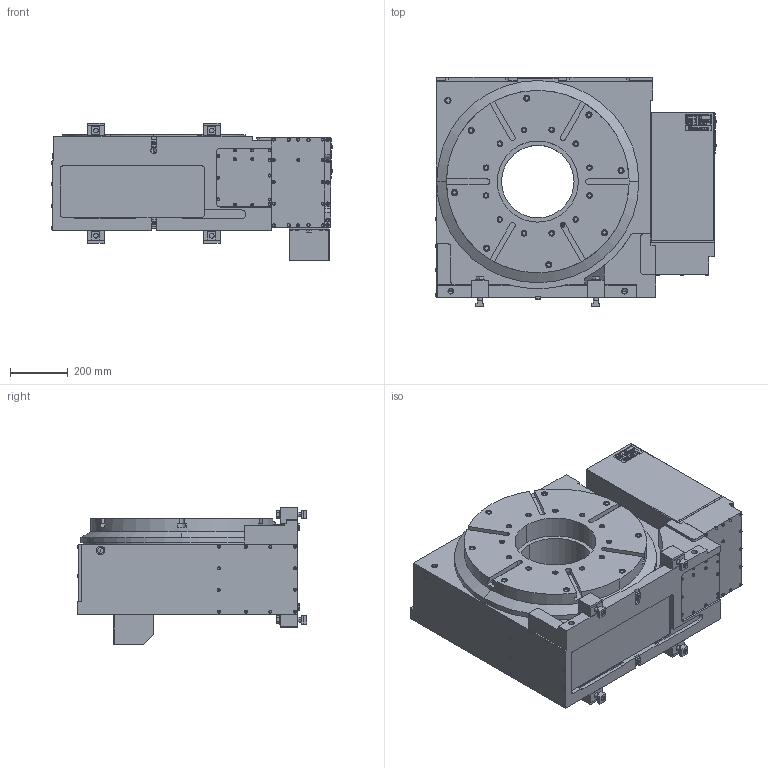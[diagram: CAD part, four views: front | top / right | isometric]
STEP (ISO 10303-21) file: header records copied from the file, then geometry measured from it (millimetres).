
FILE_DESCRIPTION (( 'STEP AP214' ), '1' );
FILE_NAME ('TR630H2F.STEP', '2020-03-23T07:33:59', ( '' ), ( '' ), 'SwSTEP 2.0', 'SolidWorks 2017', '' );
FILE_SCHEMA (( 'AUTOMOTIVE_DESIGN' ));
Length unit declared in the file: millimetre
Products named in the file (15): 僇僶乕丂俹(61E4458433)MR250RAM01; モータケース; フランジ(61E3813982)TR630H2E03; ガイドブロック(61M4197783); TR630H01僋儈僞僥(61E112983); オイルゲージ 308; ギヤーボックス(61E1129734)TR630H01; ベース(61E1129623)TR630H01; TR630H2F; CLAMPING PARTS(61E436570)結合; TR630H2Fホンタイ; キタガワシール; KQ2E06-01; コネクタカバー（61E3639910）; コネクタプレート(61E446509)
Assembly tree (19 placements, depth 4):
  TR630H2F
    TR630H2Fホンタイ
      TR630H01僋儈僞僥(61E112983)
        ベース(61E1129623)TR630H01
        ギヤーボックス(61E1129734)TR630H01
        オイルゲージ 308  x2
      ガイドブロック(61M4197783)  x2
      フランジ(61E3813982)TR630H2E03
      モータケース
      僇僶乕丂俹(61E4458433)MR250RAM01
      コネクタプレート(61E446509)
      コネクタカバー（61E3639910）
      KQ2E06-01
      キタガワシール
    CLAMPING PARTS(61E436570)結合  x4
Bounding box: 971.6 x 791 x 476 mm (x, y, z)
Volume: 171793834 mm3; surface area: 4196647.2 mm2
Topology: 17 solids, 17 shells, 3259 faces, 8350 edges, 5455 vertices
Faces by surface type: plane 2274, cylinder 702, torus 140, cone 139, sphere 4
Entity records: 106327 total; most frequent: CARTESIAN_POINT 16300, DIRECTION 15712, ORIENTED_EDGE 15660, EDGE_CURVE 7830, LINE 6016, VECTOR 6016, VERTEX_POINT 5144, AXIS2_PLACEMENT_3D 4848
